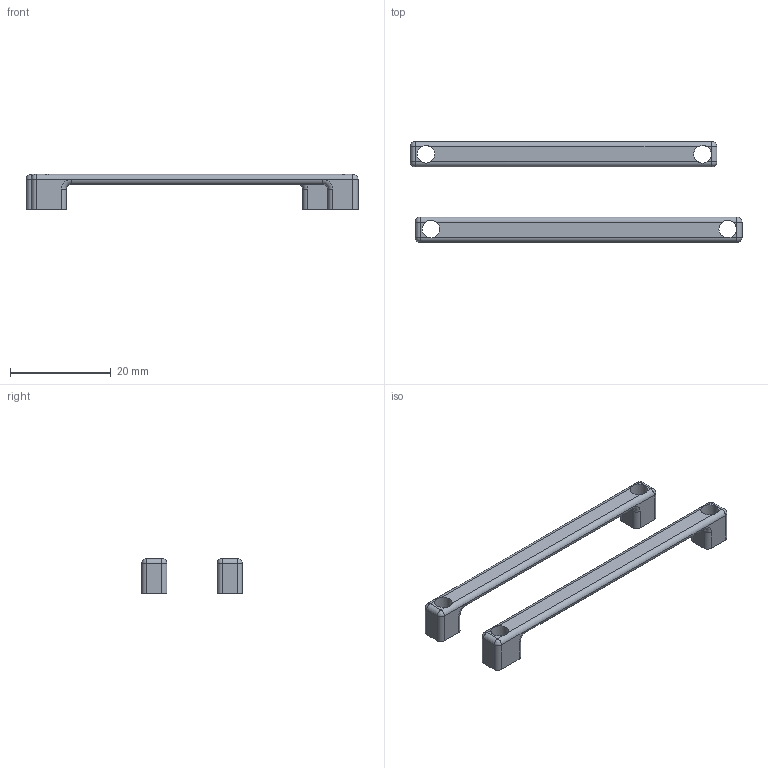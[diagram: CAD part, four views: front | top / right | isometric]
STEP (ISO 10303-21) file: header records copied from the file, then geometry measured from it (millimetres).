
FILE_DESCRIPTION(/* description */ (''),/* implementation_level */ '2;1');
FILE_NAME(/* name */ 'controlboxbracket.step',/* time_stamp */ '2023-06-06T07:05:21-04:00',/* author */ (''),/* organization */ (''),/* preprocessor_version */ 'ST-DEVELOPER v19.2',/* originating_system */ 'Autodesk Translation Framework v12.6.0.85',/* authorisation */ '');
FILE_SCHEMA (('AUTOMOTIVE_DESIGN { 1 0 10303 214 3 1 1 }'));
Length unit declared in the file: millimetre
Products named in the file (1): controlboxbracket
Bounding box: 66 x 20 x 7 mm (x, y, z)
Volume: 1499.1 mm3; surface area: 2230.9 mm2
Topology: 2 solids, 2 shells, 80 faces, 192 edges, 112 vertices
Faces by surface type: cylinder 36, plane 28, torus 8, sphere 8
Full cylindrical faces by diameter (mm): 3.5 x4
Entity records: 2412 total; most frequent: CARTESIAN_POINT 465, DIRECTION 434, ORIENTED_EDGE 384, EDGE_CURVE 192, AXIS2_PLACEMENT_3D 169, VERTEX_POINT 112, LINE 96, VECTOR 96
